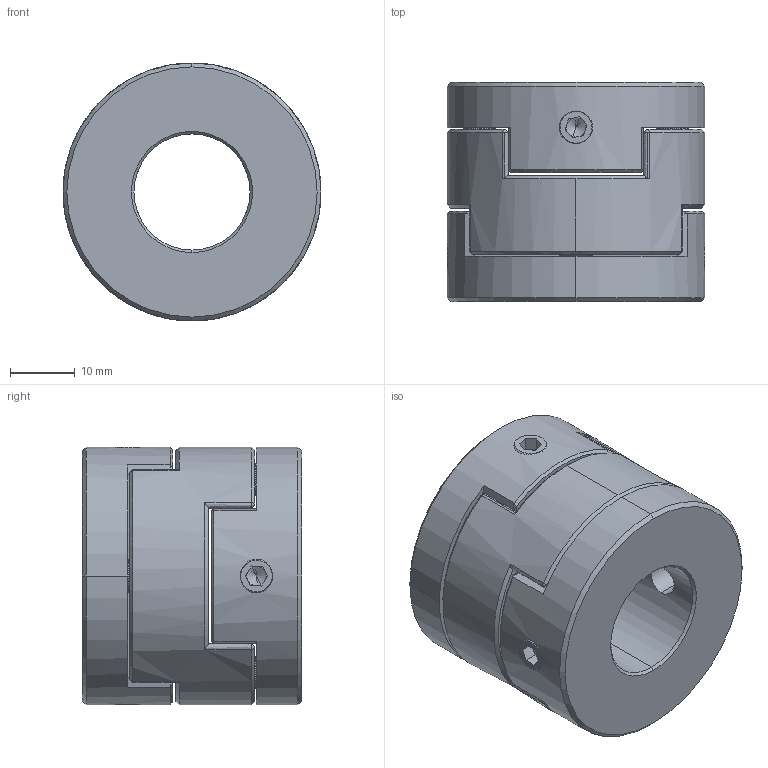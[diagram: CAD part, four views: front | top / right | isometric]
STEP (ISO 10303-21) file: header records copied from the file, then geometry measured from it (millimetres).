
FILE_DESCRIPTION (( 'STEP AP203' ), '1' );
FILE_NAME ('LZ-D-D40L35-18-20.STEP', '2021-10-30T05:25:26', ( '' ), ( '' ), 'SwSTEP 2.0', 'SolidWorks 2018', '' );
FILE_SCHEMA (( 'CONFIG_CONTROL_DESIGN' ));
Length unit declared in the file: millimetre
Products named in the file (1): LZ-D-D40L35-18-20
Bounding box: 40 x 34 x 40 mm (x, y, z)
Volume: 31627.5 mm3; surface area: 12183.1 mm2
Topology: 1 solids, 1 shells, 218 faces, 548 edges, 331 vertices
Faces by surface type: plane 89, bspline 55, cone 48, cylinder 26
Entity records: 7776 total; most frequent: CARTESIAN_POINT 3016, ORIENTED_EDGE 1080, DIRECTION 800, EDGE_CURVE 540, VERTEX_POINT 331, AXIS2_PLACEMENT_3D 290, EDGE_LOOP 243, LINE 220
